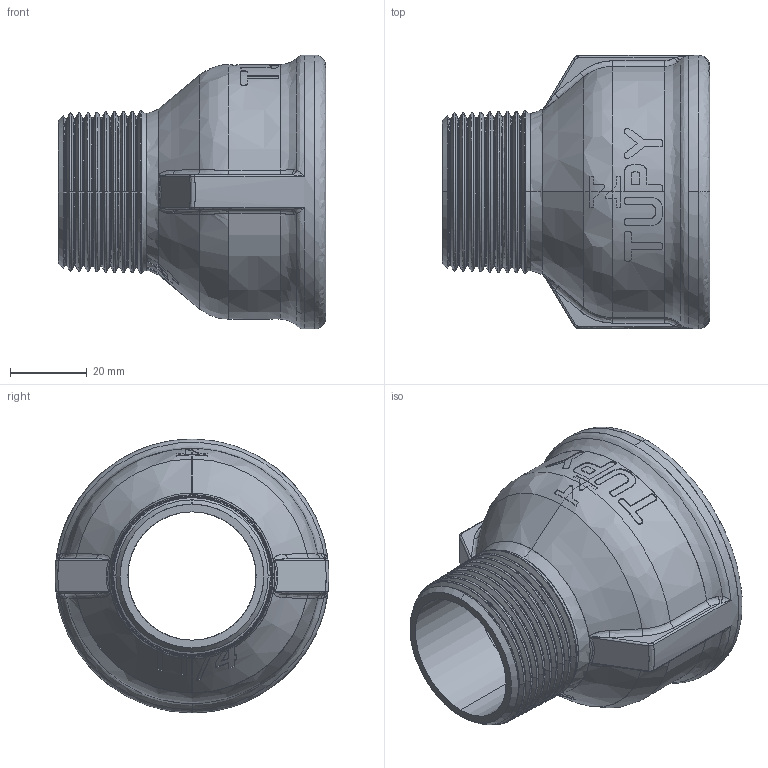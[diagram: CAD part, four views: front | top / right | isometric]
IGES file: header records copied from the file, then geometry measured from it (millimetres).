
Start section: SolidWorks IGES file using analytic representation for surfaces
Global section: file name: C:\Users\Joel Rosa\Desktop\Tubulação\12-35-OK\12-35-046.IGS; native system: SolidWorks 2011; preprocessor: SolidWorks 2011; author: Joel Rosa; date: 121209.031613; units: millimetre
Bounding box: 70 x 71.6 x 71.6 mm (x, y, z)
Surface area: 30183.2 mm2 (no closed solid volume)
Topology: 0 solids, 0 shells, 427 faces, 3582 edges, 3578 vertices
Faces by surface type: bspline 300, revolution 127
